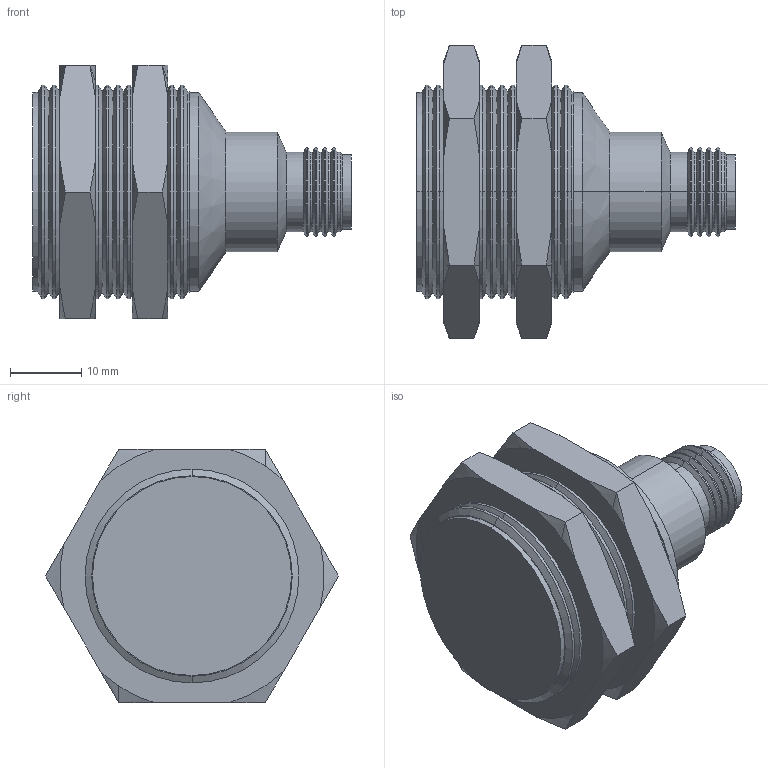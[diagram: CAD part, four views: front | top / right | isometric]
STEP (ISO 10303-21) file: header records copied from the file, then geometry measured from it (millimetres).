
FILE_DESCRIPTION (( 'STEP AP203' ), '1' );
FILE_NAME ('90-XXXX-027.STEP', '2015-10-28T13:19:37', ( 'Sam' ), ( 'Spade' ), 'SwSTEP 2.0', 'SolidWorks 2002296', '' );
FILE_SCHEMA (( 'CONFIG_CONTROL_DESIGN' ));
Length unit declared in the file: inch
Products named in the file (10): 90-XXXX-027; Imported271; Imported270; Imported267; 49-9059; Imported266; Imported264; Imported265; Imported269; Imported268
Assembly tree (9 placements, depth 2):
  90-XXXX-027
    Imported270
    Imported268
    Imported267
    Imported269
    Imported266
    49-9059
    Imported271
    Imported264
    Imported265
Bounding box: 44.73 x 41.15 x 35.64 mm (x, y, z)
Volume: 22169.6 mm3; surface area: 13783.7 mm2
Topology: 9 solids, 9 shells, 294 faces, 629 edges, 361 vertices
Faces by surface type: cone 120, cylinder 81, bspline 48, plane 45
Entity records: 9677 total; most frequent: CARTESIAN_POINT 2388, DIRECTION 1381, ORIENTED_EDGE 1246, EDGE_CURVE 623, AXIS2_PLACEMENT_3D 566, VERTEX_POINT 361, EDGE_LOOP 314, CIRCLE 308
